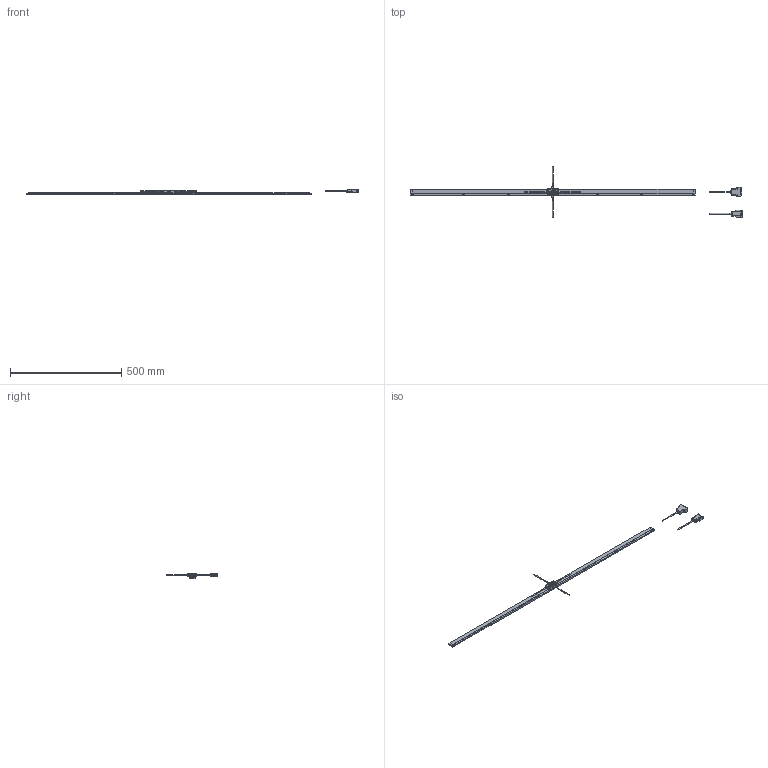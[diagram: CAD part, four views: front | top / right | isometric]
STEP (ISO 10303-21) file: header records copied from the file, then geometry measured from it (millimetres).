
FILE_DESCRIPTION(('Creo Elements/Direct Modeling STEP Export'),'2;1');
FILE_NAME('ABS_ST700-1200A.stp','2018-02-14T11:27:22',(''),(''),'Creo Elements/Direct Modeling STEP processor for AP214 (Solid Model)','Creo Elements/Direct Modeling 18.1B 29-Sep-2012 (C) Parametric Technology GmbH','');
FILE_SCHEMA(('AUTOMOTIVE_DESIGN { 1 0 10303 214 1 1 1 1 }'));
Length unit declared in the file: millimetre
Products named in the file (10): Scale_1200; Detector_Head_D; Detector_Head_L; Detector_Head_R; Detector_Head_U; Detector_Head; Connector（Dsub15pin）; Connector（Dsub9pin）; Connector; ABS_ST700A-1200A
Assembly tree (9 placements, depth 3):
  ABS_ST700A-1200A
    Connector
      Connector（Dsub9pin）
      Connector（Dsub15pin）
    Detector_Head
      Detector_Head_U
      Detector_Head_R
      Detector_Head_L
      Detector_Head_D
    Scale_1200
Bounding box: 1489.3 x 227.7 x 23.3 mm (x, y, z)
Volume: 334007.7 mm3; surface area: 122426.8 mm2
Topology: 7 solids, 7 shells, 6696 faces, 18338 edges, 12084 vertices
Faces by surface type: plane 5258, cylinder 1167, cone 145, torus 58, extrusion 36, bspline 24, revolution 8
Entity records: 214530 total; most frequent: CARTESIAN_POINT 44394, ORIENTED_EDGE 36604, DIRECTION 33033, EDGE_CURVE 18302, VECTOR 15511, LINE 15495, VERTEX_POINT 12084, AXIS2_PLACEMENT_3D 8755
